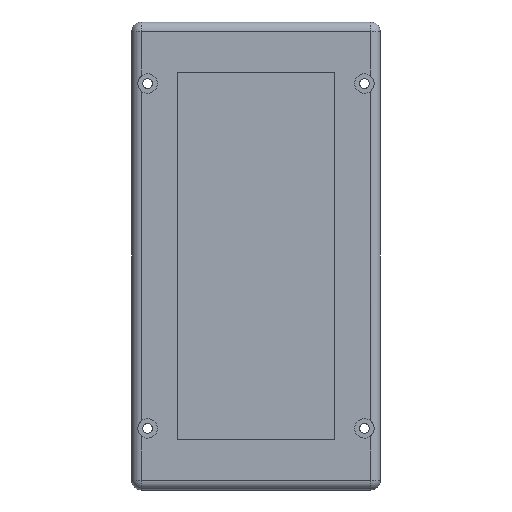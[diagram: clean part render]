
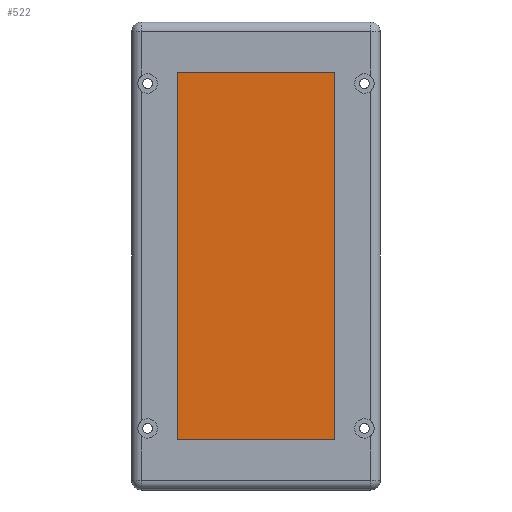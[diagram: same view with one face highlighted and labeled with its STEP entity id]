
A CAD part, top view. The second image highlights one B-rep face of the part: STEP entity #522.
In plain terms, the highlighted planar face has unit normal (0, 0, 1).
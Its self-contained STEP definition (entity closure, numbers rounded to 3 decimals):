
#110=FACE_OUTER_BOUND('',#152,.T.);
#152=EDGE_LOOP('',(#469,#470,#471,#472));
#180=LINE('',#945,#214);
#183=LINE('',#950,#217);
#184=LINE('',#953,#218);
#186=LINE('',#956,#220);
#214=VECTOR('',#737,10.);
#217=VECTOR('',#742,10.);
#218=VECTOR('',#745,10.);
#220=VECTOR('',#749,10.);
#265=VERTEX_POINT('',#942);
#266=VERTEX_POINT('',#944);
#267=VERTEX_POINT('',#948);
#268=VERTEX_POINT('',#952);
#332=EDGE_CURVE('',#266,#265,#180,.T.);
#335=EDGE_CURVE('',#265,#267,#183,.T.);
#336=EDGE_CURVE('',#268,#266,#184,.T.);
#338=EDGE_CURVE('',#267,#268,#186,.T.);
#469=ORIENTED_EDGE('',*,*,#335,.T.);
#470=ORIENTED_EDGE('',*,*,#338,.T.);
#471=ORIENTED_EDGE('',*,*,#336,.T.);
#472=ORIENTED_EDGE('',*,*,#332,.T.);
#495=PLANE('',#597);
#522=ADVANCED_FACE('',(#110),#495,.T.);
#597=AXIS2_PLACEMENT_3D('',#957,#750,#751);
#737=DIRECTION('',(0.,1.,0.));
#742=DIRECTION('',(-1.,0.,0.));
#745=DIRECTION('',(1.,0.,0.));
#749=DIRECTION('',(0.,-1.,0.));
#750=DIRECTION('center_axis',(0.,0.,1.));
#751=DIRECTION('ref_axis',(1.,0.,0.));
#942=CARTESIAN_POINT('',(16.,37.25,8.));
#944=CARTESIAN_POINT('',(16.,-37.25,8.));
#945=CARTESIAN_POINT('',(16.,37.25,8.));
#948=CARTESIAN_POINT('',(-16.,37.25,8.));
#950=CARTESIAN_POINT('',(-16.,37.25,8.));
#952=CARTESIAN_POINT('',(-16.,-37.25,8.));
#953=CARTESIAN_POINT('',(16.,-37.25,8.));
#956=CARTESIAN_POINT('',(-16.,-37.25,8.));
#957=CARTESIAN_POINT('Origin',(0.,0.,
8.));
